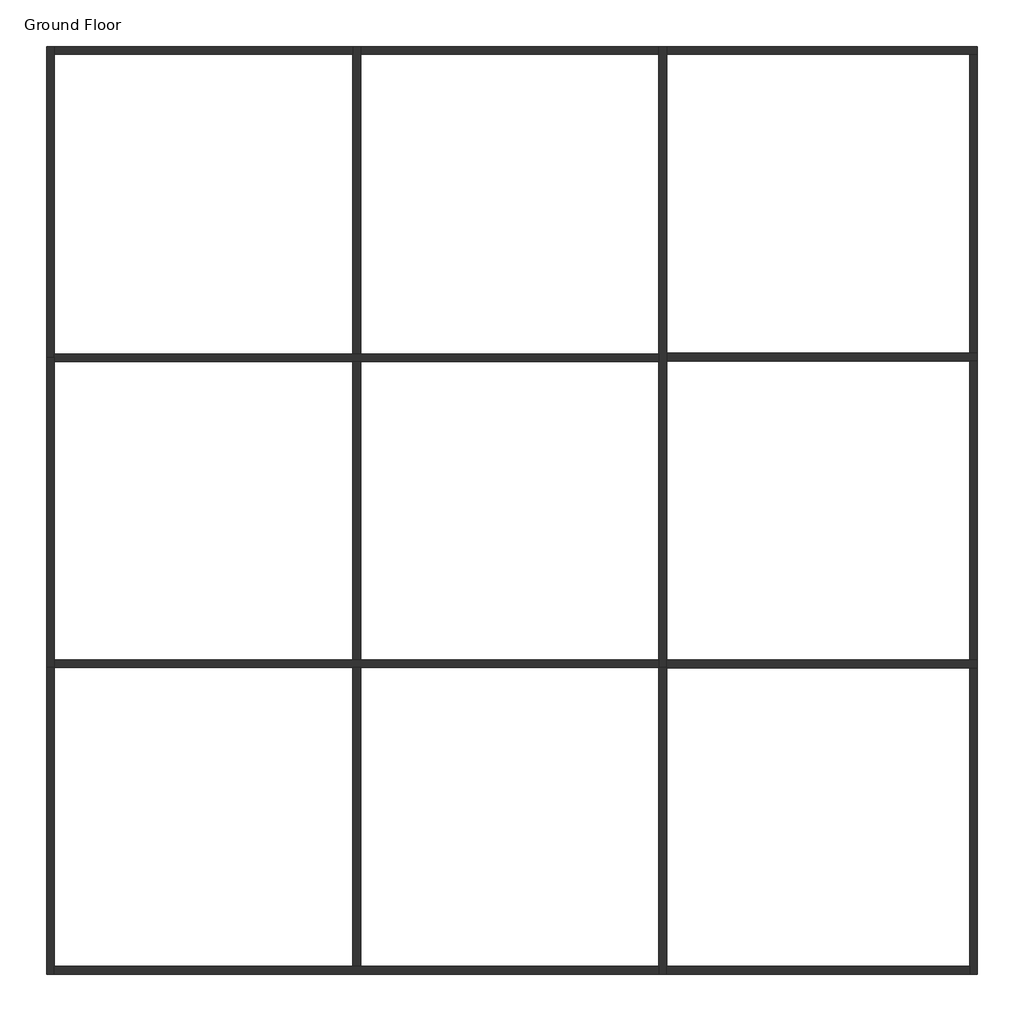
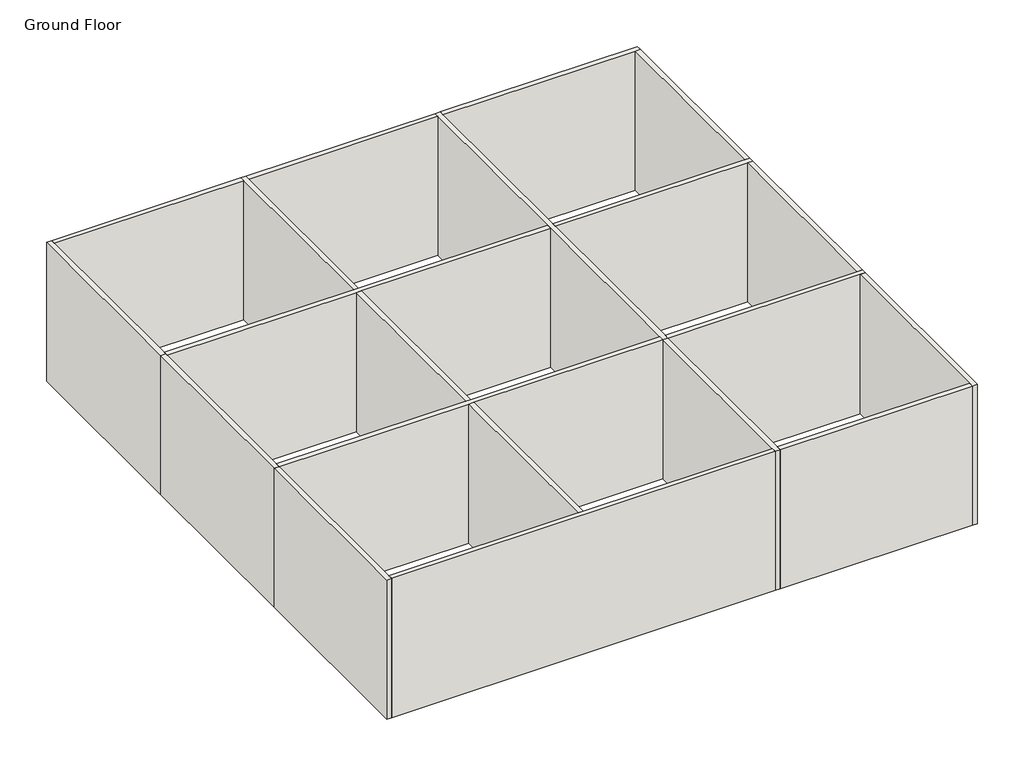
# One storey: 20 walls.
"""IFC4 building model written with IfcOpenShell, lengths in millimetres."""

import ifcopenshell
import ifcopenshell.guid

model = None  # the IFC model being written
_history = None  # IfcOwnerHistory: only IFC2X3 demands one
_inside = {}  # id of a spatial element -> (the spatial element, [elements in it])
_under = {}  # id of a project, library or spatial element -> (it, [spatial elements below it])
_declared = {}  # id of a project -> (the project, [libraries it declares])
_typed = {}  # id of a type object -> (the type object, [elements of that type])
_made_of = {}  # id of a material, layer set ... -> (it, [elements and type objects made of it])


def new_model(schema):
    """Start an empty IFC model of exactly this schema.

    Asked for "IFC4X3", IfcOpenShell would pick the latest addendum, in which some entities
    have other attributes; the version numbers below select the first issue.
    IFC2X3 requires an IfcOwnerHistory on every rooted entity: one is made here for all.
    """
    global model, _history
    if schema == "IFC4X3":
        model = ifcopenshell.file(schema_version=(4, 3, 0, 0))
    else:
        model = ifcopenshell.file(schema=schema)
    _inside.clear()
    _under.clear()
    _declared.clear()
    _typed.clear()
    _made_of.clear()
    _history = None
    if model.schema == "IFC2X3":
        org = make("IfcOrganization", Name="unknown")
        user = make(
            "IfcPersonAndOrganization",
            ThePerson=make("IfcPerson", FamilyName="unknown"),
            TheOrganization=org,
        )
        app = make(
            "IfcApplication",
            ApplicationDeveloper=org,
            Version="unknown",
            ApplicationFullName="unknown",
            ApplicationIdentifier="unknown",
        )
        _history = make(
            "IfcOwnerHistory",
            OwningUser=user,
            OwningApplication=app,
            ChangeAction="ADDED",
            CreationDate=0,
        )
    return model


def make(cls, **values):
    """One entity of the class cls with the attributes given. An attribute that is None is left unset."""
    return model.create_entity(
        cls, **{name: value for name, value in values.items() if value is not None}
    )


def rooted(cls, **values):
    """An entity with a GlobalId (a new one), such as an element, a storey or a relation."""
    return make(cls, GlobalId=ifcopenshell.guid.new(), OwnerHistory=_history, **values)


def si_unit(unit_type, name, prefix=None):
    """IfcSIUnit, for example si_unit("LENGTHUNIT", "METRE", prefix="MILLI")."""
    return make("IfcSIUnit", UnitType=unit_type, Prefix=prefix, Name=name)


def assignment(units):
    """IfcUnitAssignment: the units of a project."""
    return None if units is None else make("IfcUnitAssignment", Units=units)


def point(xyz):
    """IfcCartesianPoint."""
    return None if xyz is None else make("IfcCartesianPoint", Coordinates=xyz)


def direction(xyz):
    """IfcDirection."""
    return None if xyz is None else make("IfcDirection", DirectionRatios=xyz)


def frame(location, z_axis=None, x_axis=None):
    """IfcAxis2Placement3D, a coordinate frame: its origin and axes. An axis left out is left unset."""
    return make(
        "IfcAxis2Placement3D",
        Location=point(location),
        Axis=direction(z_axis),
        RefDirection=direction(x_axis),
    )


def origin():
    """The frame at (0, 0, 0) with its axes left unset."""
    return frame((0.0, 0.0, 0.0))


def origin_with_axes():
    """The frame at (0, 0, 0) with the z axis (0, 0, 1) and the x axis (1, 0, 0) written out."""
    return frame((0.0, 0.0, 0.0), z_axis=(0.0, 0.0, 1.0), x_axis=(1.0, 0.0, 0.0))


def place(relative_to, where):
    """IfcLocalPlacement: puts the frame where relative to a parent placement (None: the world)."""
    return make(
        "IfcLocalPlacement", PlacementRelTo=relative_to, RelativePlacement=where
    )


def context(
    kind, dimensions, precision=None, world=None, true_north=None, identifier=None
):
    """IfcGeometricRepresentationContext, for example the 3D "Model" context."""
    return make(
        "IfcGeometricRepresentationContext",
        ContextIdentifier=identifier,
        ContextType=kind,
        CoordinateSpaceDimension=dimensions,
        Precision=precision,
        WorldCoordinateSystem=world,
        TrueNorth=true_north,
    )


def project(units=None, contexts=None):
    """IfcProject with its units and contexts."""
    return rooted(
        "IfcProject",
        Name="project",
        RepresentationContexts=contexts,
        UnitsInContext=assignment(units),
    )


def spatial(cls, under=None, at=None, **own):
    """A site, building, storey or space (cls), placed at a placement, below another one or the project."""
    s = rooted(cls, ObjectPlacement=at, **own)
    if under is not None:
        _under.setdefault(under.id(), (under, []))[1].append(s)
    return s


def polyline(points):
    """IfcPolyline through the points."""
    return make("IfcPolyline", Points=[point(p) for p in points])


def outline(outer, holes=None, kind="AREA"):
    """IfcArbitraryClosedProfileDef: a profile drawn as a closed curve; with holes, ...WithVoids."""
    if holes is None:
        return make("IfcArbitraryClosedProfileDef", ProfileType=kind, OuterCurve=outer)
    return make(
        "IfcArbitraryProfileDefWithVoids",
        ProfileType=kind,
        OuterCurve=outer,
        InnerCurves=holes,
    )


def extrude(swept, where, along, depth):
    """IfcExtrudedAreaSolid: the profile swept, set in the frame where, extruded along a direction by depth."""
    return make(
        "IfcExtrudedAreaSolid",
        SweptArea=swept,
        Position=where,
        ExtrudedDirection=direction(along),
        Depth=depth,
    )


def faces_of(points, faces, orient=None, outer=None):
    """IfcFace entities. A face is a list of loops; a loop is a list of indices into points, from 0.

    orient and outer hold one flag for each loop. By default every Orientation is true, the
    first loop of a face is its IfcFaceOuterBound and the others are IfcFaceBound.
    """
    made = []
    for i, loops in enumerate(faces):
        bounds = []
        for j, loop in enumerate(loops):
            is_outer = j == 0 if outer is None else outer[i][j]
            bounds.append(
                make(
                    "IfcFaceOuterBound" if is_outer else "IfcFaceBound",
                    Bound=make("IfcPolyLoop", Polygon=[points[k] for k in loop]),
                    Orientation=True if orient is None else orient[i][j],
                )
            )
        made.append(make("IfcFace", Bounds=bounds))
    return made


def faceted_brep(points, faces, orient=None, outer=None, voids=None):
    """IfcFacetedBrep: a solid bounded by flat faces; with voids (closed shells), ...WithVoids."""
    shared = [point(p) for p in points]
    hull = make("IfcClosedShell", CfsFaces=faces_of(shared, faces, orient, outer))
    if voids is None:
        return make("IfcFacetedBrep", Outer=hull)
    return make(
        "IfcFacetedBrepWithVoids",
        Outer=hull,
        Voids=[
            make(cls, CfsFaces=faces_of(shared, fs, o, b)) for cls, fs, o, b in voids
        ],
    )


def shape(context_of_items, identifier, shape_type, items):
    """IfcShapeRepresentation: the items that make up one representation, for example the "Body"."""
    return make(
        "IfcShapeRepresentation",
        ContextOfItems=context_of_items,
        RepresentationIdentifier=identifier,
        RepresentationType=shape_type,
        Items=items,
    )


def made_of(thing, what):
    """Note that an element or type object is made of a material, layer set ...; save() writes the relation."""
    if what is not None:
        _made_of.setdefault(what.id(), (what, []))[1].append(thing)
    return thing


def element(
    cls,
    number,
    at=None,
    inside=None,
    cuts=None,
    type_object=None,
    material=None,
    context=None,
    identifier="Body",
    shape_type=None,
    held_by="IfcProductDefinitionShape",
    body=None,
    shapes=None,
    **own,
):
    """One element of the class cls, such as IfcWall. Its Tag is "e" and its number.

    at: its placement. inside: the storey or other place that contains it. cuts: it is an
    opening in that element (IfcRelVoidsElement). A single representation is given by context,
    identifier, shape_type and body (its items); several are given by shapes. held_by: the class
    of the entity that holds the representations. save() writes the other relations.
    """
    e = rooted(cls, Tag="e%d" % number, ObjectPlacement=at, **own)
    if body is not None:
        shapes = [shape(context, identifier, shape_type, body)]
    if shapes is not None:
        e.Representation = make(held_by, Representations=shapes)
    if inside is not None:
        _inside.setdefault(inside.id(), (inside, []))[1].append(e)
    if cuts is not None:
        rooted(
            "IfcRelVoidsElement", RelatingBuildingElement=cuts, RelatedOpeningElement=e
        )
    if type_object is not None:
        _typed.setdefault(type_object.id(), (type_object, []))[1].append(e)
    return made_of(e, material)


def aggregate(whole, parts):
    """IfcRelAggregates: a whole, such as a stair, and the parts it consists of."""
    return rooted("IfcRelAggregates", RelatingObject=whole, RelatedObjects=parts)


def save(model, path):
    """Write the relations noted so far, then the file.

    IfcRelAggregates (storeys below a building ...), IfcRelContainedInSpatialStructure (elements
    in a storey), IfcRelDefinesByType, IfcRelAssociatesMaterial and IfcRelDeclares: one each for
    every whole, place, type object, material and project.
    """
    for whole, parts in _under.values():
        aggregate(whole, parts)
    for where, things in _inside.values():
        rooted(
            "IfcRelContainedInSpatialStructure",
            RelatedElements=things,
            RelatingStructure=where,
        )
    for kind, things in _typed.values():
        rooted("IfcRelDefinesByType", RelatedObjects=things, RelatingType=kind)
    for what, things in _made_of.values():
        rooted("IfcRelAssociatesMaterial", RelatedObjects=things, RelatingMaterial=what)
    for by, libraries in _declared.values():
        rooted("IfcRelDeclares", RelatingContext=by, RelatedDefinitions=libraries)
    model.write(path)


model = new_model("IFC4")

# Units and contexts
model_context = context("Model", 3, world=origin())
ifc_project = project(units=[si_unit("LENGTHUNIT", "METRE", prefix="MILLI")], contexts=[model_context])

# Site, building, storey
site = spatial("IfcSite", under=ifc_project)
building = spatial("IfcBuilding", under=site)
storey = spatial("IfcBuildingStorey", under=building, Name="Ground Floor", Elevation=0.0)

# Walls
placement = place(None, origin())
element("IfcWall", 1, ObjectType="Double brick - 270", at=placement, inside=storey, context=model_context, shape_type="Brep", body=[
    faceted_brep([(-14696.1423281, 15269.787004, 0.0), (-14696.1423281, 4518.8803876, 0.0), (-14696.1423281, 4518.8803876, 8000.0), (-14696.1423281, 15269.787004, 8000.0), (-14426.1423281, 15269.787004, 0.0), (-14426.1423281, 15269.787004, 8000.0), (-14426.1423281, 14999.787004, 8000.0), (-14426.1423281, 4653.8803876, 8000.0), (-14426.1423281, 4518.8803876, 8000.0), (-14426.1423281, 4518.8803876, 0.0), (-14426.1423281, 4653.8803876, 0.0), (-14426.1423281, 14999.787004, 0.0)], [[[0, 1, 2, 3]], [[4, 5, 6, 7, 8, 9, 10, 11]], [[1, 0, 4, 11, 10, 9]], [[2, 1, 9, 8]], [[3, 2, 8, 7, 6, 5]], [[0, 3, 5, 4]]]),
])
element("IfcWall", 2, ObjectType="Double brick - 270", at=placement, inside=storey, context=model_context, shape_type="Brep", body=[
    faceted_brep([(-3856.1423281, 4653.8803876, 0.0), (-3856.1423281, 14999.787004, 0.0), (-3856.1423281, 15269.787004, 0.0), (-3856.1423281, 15269.787004, 8000.0), (-3856.1423281, 14999.787004, 8000.0), (-3856.1423281, 4653.8803876, 8000.0), (-4126.1423281, 4653.8803876, 0.0), (-4126.1423281, 4653.8803876, 8000.0), (-4126.1423281, 14999.787004, 8000.0), (-4126.1423281, 15269.787004, 8000.0), (-4126.1423281, 15269.787004, 0.0), (-4126.1423281, 14999.787004, 0.0)], [[[0, 1, 2, 3, 4, 5]], [[6, 7, 8, 9, 10, 11]], [[2, 1, 0, 6, 11, 10]], [[5, 4, 3, 9, 8, 7]], [[0, 5, 7, 6]], [[3, 2, 10, 9]]]),
])
element("IfcWall", 3, ObjectType="Double brick - 270", at=placement, inside=storey, context=model_context, shape_type="SweptSolid", body=[
    extrude(outline(polyline([(-14426.1423281, 15269.787004), (-4126.1423281, 15269.787004), (-4126.1423281, 14999.787004), (-14426.1423281, 14999.787004), (-14426.1423281, 15269.787004)])), origin_with_axes(), (0.0, 0.0, 1.0), 8000.0),
])
element("IfcWall", 4, ObjectType="Double brick - 270", at=placement, inside=storey, context=model_context, shape_type="Brep", body=[
    faceted_brep([(6713.8576719, -6186.1196124, 0.0), (6713.8576719, -5923.1663042, 0.0), (6713.8576719, 4406.8336958, 0.0), (6713.8576719, 4676.8336958, 0.0), (6713.8576719, 14999.787004, 0.0), (6713.8576719, 15269.787004, 0.0), (6713.8576719, 15269.787004, 8000.0), (6713.8576719, 14999.787004, 8000.0), (6713.8576719, 4676.8336958, 8000.0), (6713.8576719, 4406.8336958, 8000.0), (6713.8576719, -5923.1663042, 8000.0), (6713.8576719, -6186.1196124, 8000.0), (6443.8576719, -6186.1196124, 0.0), (6443.8576719, -6186.1196124, 8000.0), (6443.8576719, -5916.1196124, 8000.0), (6443.8576719, 4383.8803876, 8000.0), (6443.8576719, 4653.8803876, 8000.0), (6443.8576719, 14999.787004, 8000.0), (6443.8576719, 15269.787004, 8000.0), (6443.8576719, 15269.787004, 0.0), (6443.8576719, 14999.787004, 0.0), (6443.8576719, 4653.8803876, 0.0), (6443.8576719, 4383.8803876, 0.0), (6443.8576719, -5916.1196124, 0.0)], [[[0, 1, 2, 3, 4, 5, 6, 7, 8, 9, 10, 11]], [[12, 13, 14, 15, 16, 17, 18, 19, 20, 21, 22, 23]], [[5, 4, 3, 2, 1, 0, 12, 23, 22, 21, 20, 19]], [[11, 10, 9, 8, 7, 6, 18, 17, 16, 15, 14, 13]], [[6, 5, 19, 18]], [[0, 11, 13, 12]]]),
])
element("IfcWall", 5, ObjectType="Double brick - 270", at=placement, inside=storey, context=model_context, shape_type="SweptSolid", body=[
    extrude(outline(polyline([(-3856.1423281, 15269.787004), (6443.8576719, 15269.787004), (6443.8576719, 14999.787004), (-3856.1423281, 14999.787004), (-3856.1423281, 15269.787004)])), origin_with_axes(), (0.0, 0.0, 1.0), 8000.0),
])
element("IfcWall", 6, ObjectType="Double brick - 270", at=placement, inside=storey, context=model_context, shape_type="Brep", body=[
    faceted_brep([(-14696.1423281, 4518.8803876, 0.0), (-14696.1423281, -6186.1196124, 0.0), (-14696.1423281, -6186.1196124, 8000.0), (-14696.1423281, 4518.8803876, 8000.0), (-14426.1423281, 4518.8803876, 0.0), (-14426.1423281, 4518.8803876, 8000.0), (-14426.1423281, 4383.8803876, 8000.0), (-14426.1423281, -5916.1196124, 8000.0), (-14426.1423281, -6186.1196124, 8000.0), (-14426.1423281, -6186.1196124, 0.0), (-14426.1423281, -5916.1196124, 0.0), (-14426.1423281, 4383.8803876, 0.0)], [[[0, 1, 2, 3]], [[4, 5, 6, 7, 8, 9, 10, 11]], [[1, 0, 4, 11, 10, 9]], [[3, 2, 8, 7, 6, 5]], [[0, 3, 5, 4]], [[2, 1, 9, 8]]]),
])
element("IfcWall", 7, ObjectType="Double brick - 270", at=placement, inside=storey, context=model_context, shape_type="Brep", body=[
    faceted_brep([(-14426.1423281, -6186.1196124, 0.0), (-4126.1423281, -6186.1196124, 0.0), (-3856.1423281, -6186.1196124, 0.0), (6443.8576719, -6186.1196124, 0.0), (6443.8576719, -6186.1196124, 8000.0), (-3856.1423281, -6186.1196124, 8000.0), (-4126.1423281, -6186.1196124, 8000.0), (-14426.1423281, -6186.1196124, 8000.0), (-14426.1423281, -5916.1196124, 0.0), (-14426.1423281, -5916.1196124, 8000.0), (-4126.1423281, -5916.1196124, 8000.0), (-3856.1423281, -5916.1196124, 8000.0), (6443.8576719, -5916.1196124, 8000.0), (6443.8576719, -5916.1196124, 0.0), (-3856.1423281, -5916.1196124, 0.0), (-4126.1423281, -5916.1196124, 0.0)], [[[0, 1, 2, 3, 4, 5, 6, 7]], [[8, 9, 10, 11, 12, 13, 14, 15]], [[3, 2, 1, 0, 8, 15, 14, 13]], [[7, 6, 5, 4, 12, 11, 10, 9]], [[0, 7, 9, 8]], [[4, 3, 13, 12]]]),
])
element("IfcWall", 8, ObjectType="Double brick - 270", at=placement, inside=storey, context=model_context, shape_type="SweptSolid", body=[
    extrude(outline(polyline([(-3856.1423281, 4383.8803876), (-3856.1423281, -5916.1196124), (-4126.1423281, -5916.1196124), (-4126.1423281, 4383.8803876), (-3856.1423281, 4383.8803876)])), origin_with_axes(), (0.0, 0.0, 1.0), 8000.0),
])
element("IfcWall", 9, ObjectType="Double brick - 270", at=placement, inside=storey, context=model_context, shape_type="Brep", body=[
    faceted_brep([(6443.8576719, 4653.8803876, 0.0), (-3856.1423281, 4653.8803876, 0.0), (-4126.1423281, 4653.8803876, 0.0), (-14426.1423281, 4653.8803876, 0.0), (-14426.1423281, 4653.8803876, 8000.0), (-4126.1423281, 4653.8803876, 8000.0), (-3856.1423281, 4653.8803876, 8000.0), (6443.8576719, 4653.8803876, 8000.0), (6443.8576719, 4383.8803876, 0.0), (6443.8576719, 4383.8803876, 8000.0), (-3856.1423281, 4383.8803876, 8000.0), (-4126.1423281, 4383.8803876, 8000.0), (-14426.1423281, 4383.8803876, 8000.0), (-14426.1423281, 4383.8803876, 0.0), (-4126.1423281, 4383.8803876, 0.0), (-3856.1423281, 4383.8803876, 0.0), (-14426.1423281, 4518.8803876, 0.0), (-14426.1423281, 4518.8803876, 8000.0)], [[[0, 1, 2, 3, 4, 5, 6, 7]], [[8, 9, 10, 11, 12, 13, 14, 15]], [[3, 2, 1, 0, 8, 15, 14, 13, 16]], [[7, 6, 5, 4, 17, 12, 11, 10, 9]], [[4, 3, 16, 13, 12, 17]], [[0, 7, 9, 8]]]),
])
element("IfcWall", 10, ObjectType="Double brick - 270", at=placement, inside=storey, context=model_context, shape_type="Brep", body=[
    faceted_brep([(17443.8576719, 15269.787004, 0.0), (6713.8576719, 15269.787004, 0.0), (6713.8576719, 15269.787004, 8000.0), (17443.8576719, 15269.787004, 8000.0), (17443.8576719, 14999.787004, 0.0), (17443.8576719, 14999.787004, 8000.0), (17173.8576719, 14999.787004, 8000.0), (6713.8576719, 14999.787004, 8000.0), (6713.8576719, 14999.787004, 0.0), (17173.8576719, 14999.787004, 0.0)], [[[0, 1, 2, 3]], [[4, 5, 6, 7, 8, 9]], [[1, 0, 4, 9, 8]], [[3, 2, 7, 6, 5]], [[2, 1, 8, 7]], [[0, 3, 5, 4]]]),
])
element("IfcWall", 11, ObjectType="Double brick - 270", at=placement, inside=storey, context=model_context, shape_type="Brep", body=[
    faceted_brep([(17443.8576719, 4676.8336958, 0.0), (17173.8576719, 4676.8336958, 0.0), (6713.8576719, 4676.8336958, 0.0), (6713.8576719, 4676.8336958, 8000.0), (17173.8576719, 4676.8336958, 8000.0), (17443.8576719, 4676.8336958, 8000.0), (17443.8576719, 4406.8336958, 0.0), (17443.8576719, 4406.8336958, 8000.0), (17173.8576719, 4406.8336958, 8000.0), (6713.8576719, 4406.8336958, 8000.0), (6713.8576719, 4406.8336958, 0.0), (17173.8576719, 4406.8336958, 0.0)], [[[0, 1, 2, 3, 4, 5]], [[6, 7, 8, 9, 10, 11]], [[2, 1, 0, 6, 11, 10]], [[5, 4, 3, 9, 8, 7]], [[3, 2, 10, 9]], [[0, 5, 7, 6]]]),
])
element("IfcWall", 12, ObjectType="Double brick - 270", at=placement, inside=storey, context=model_context, shape_type="SweptSolid", body=[
    extrude(outline(polyline([(17443.8576719, 14999.787004), (17443.8576719, 4676.8336958), (17173.8576719, 4676.8336958), (17173.8576719, 14999.787004), (17443.8576719, 14999.787004)])), origin_with_axes(), (0.0, 0.0, 1.0), 8000.0),
])
element("IfcWall", 13, ObjectType="Double brick - 270", at=placement, inside=storey, context=model_context, shape_type="Brep", body=[
    faceted_brep([(17443.8576719, -5923.1663042, 0.0), (17173.8576719, -5923.1663042, 0.0), (6713.8576719, -5923.1663042, 0.0), (6713.8576719, -5923.1663042, 8000.0), (17173.8576719, -5923.1663042, 8000.0), (17443.8576719, -5923.1663042, 8000.0), (17443.8576719, -6193.1663042, 0.0), (17443.8576719, -6193.1663042, 8000.0), (17173.8576719, -6193.1663042, 8000.0), (6713.8576719, -6193.1663042, 8000.0), (6713.8576719, -6193.1663042, 0.0), (17173.8576719, -6193.1663042, 0.0), (6713.8576719, -6186.1196124, 0.0), (6713.8576719, -6186.1196124, 8000.0)], [[[0, 1, 2, 3, 4, 5]], [[6, 7, 8, 9, 10, 11]], [[2, 1, 0, 6, 11, 10, 12]], [[5, 4, 3, 13, 9, 8, 7]], [[3, 2, 12, 10, 9, 13]], [[0, 5, 7, 6]]]),
])
element("IfcWall", 14, ObjectType="Double brick - 270", at=placement, inside=storey, context=model_context, shape_type="SweptSolid", body=[
    extrude(outline(polyline([(17443.8576719, 4406.8336958), (17443.8576719, -5923.1663042), (17173.8576719, -5923.1663042), (17173.8576719, 4406.8336958), (17443.8576719, 4406.8336958)])), origin_with_axes(), (0.0, 0.0, 1.0), 8000.0),
])
element("IfcWall", 15, ObjectType="Double brick - 270", at=placement, inside=storey, context=model_context, shape_type="Brep", body=[
    faceted_brep([(17443.8576719, -16779.0729206, 0.0), (17443.8576719, -6193.1663042, 0.0), (17443.8576719, -6193.1663042, 8000.0), (17443.8576719, -16779.0729206, 8000.0), (17173.8576719, -16779.0729206, 0.0), (17173.8576719, -16779.0729206, 8000.0), (17173.8576719, -16509.0729206, 8000.0), (17173.8576719, -6193.1663042, 8000.0), (17173.8576719, -6193.1663042, 0.0), (17173.8576719, -16509.0729206, 0.0)], [[[0, 1, 2, 3]], [[4, 5, 6, 7, 8, 9]], [[1, 0, 4, 9, 8]], [[3, 2, 7, 6, 5]], [[2, 1, 8, 7]], [[0, 3, 5, 4]]]),
])
element("IfcWall", 16, ObjectType="Double brick - 270", at=placement, inside=storey, context=model_context, shape_type="Brep", body=[
    faceted_brep([(6713.8576719, -16779.0729206, 0.0), (6713.8576719, -16509.0729206, 0.0), (6713.8576719, -6193.1663042, 0.0), (6713.8576719, -6186.1196124, 0.0), (6713.8576719, -6186.1196124, 8000.0), (6713.8576719, -6193.1663042, 8000.0), (6713.8576719, -16509.0729206, 8000.0), (6713.8576719, -16779.0729206, 8000.0), (6443.8576719, -16779.0729206, 0.0), (6443.8576719, -16779.0729206, 8000.0), (6443.8576719, -16509.0729206, 8000.0), (6443.8576719, -6186.1196124, 8000.0), (6443.8576719, -6186.1196124, 0.0), (6443.8576719, -16509.0729206, 0.0)], [[[0, 1, 2, 3, 4, 5, 6, 7]], [[8, 9, 10, 11, 12, 13]], [[3, 2, 1, 0, 8, 13, 12]], [[7, 6, 5, 4, 11, 10, 9]], [[4, 3, 12, 11]], [[0, 7, 9, 8]]]),
])
element("IfcWall", 17, ObjectType="Double brick - 270", at=placement, inside=storey, context=model_context, shape_type="SweptSolid", body=[
    extrude(outline(polyline([(-3856.1423281, -6186.1196124), (-3856.1423281, -16509.0729206), (-4126.1423281, -16509.0729206), (-4126.1423281, -6186.1196124), (-3856.1423281, -6186.1196124)])), origin_with_axes(), (0.0, 0.0, 1.0), 8000.0),
])
element("IfcWall", 18, ObjectType="Double brick - 270", at=placement, inside=storey, context=model_context, shape_type="Brep", body=[
    faceted_brep([(-14426.1423281, -16779.0729206, 0.0), (-14426.1423281, -16509.0729206, 0.0), (-14426.1423281, -6186.1196124, 0.0), (-14426.1423281, -6186.1196124, 8000.0), (-14426.1423281, -16509.0729206, 8000.0), (-14426.1423281, -16779.0729206, 8000.0), (-14696.1423281, -16779.0729206, 0.0), (-14696.1423281, -16779.0729206, 8000.0), (-14696.1423281, -6186.1196124, 8000.0), (-14696.1423281, -6186.1196124, 0.0)], [[[0, 1, 2, 3, 4, 5]], [[6, 7, 8, 9]], [[2, 1, 0, 6, 9]], [[5, 4, 3, 8, 7]], [[3, 2, 9, 8]], [[0, 5, 7, 6]]]),
])
element("IfcWall", 19, ObjectType="Double brick - 270", at=placement, inside=storey, context=model_context, shape_type="SweptSolid", body=[
    extrude(outline(polyline([(6713.8576719, -16509.0729206), (17173.8576719, -16509.0729206), (17173.8576719, -16779.0729206), (6713.8576719, -16779.0729206), (6713.8576719, -16509.0729206)])), origin_with_axes(), (0.0, 0.0, 1.0), 8000.0),
])
element("IfcWall", 20, ObjectType="Double brick - 270", at=placement, inside=storey, context=model_context, shape_type="Brep", body=[
    faceted_brep([(6443.8576719, -16509.0729206, 0.0), (-3856.1423281, -16509.0729206, 0.0), (-4126.1423281, -16509.0729206, 0.0), (-14426.1423281, -16509.0729206, 0.0), (-14426.1423281, -16509.0729206, 8000.0), (-4126.1423281, -16509.0729206, 8000.0), (-3856.1423281, -16509.0729206, 8000.0), (6443.8576719, -16509.0729206, 8000.0), (6443.8576719, -16779.0729206, 0.0), (6443.8576719, -16779.0729206, 8000.0), (-14426.1423281, -16779.0729206, 8000.0), (-14426.1423281, -16779.0729206, 0.0)], [[[0, 1, 2, 3, 4, 5, 6, 7]], [[8, 9, 10, 11]], [[3, 2, 1, 0, 8, 11]], [[7, 6, 5, 4, 10, 9]], [[0, 7, 9, 8]], [[4, 3, 11, 10]]]),
])

save(model, "model.ifc")
